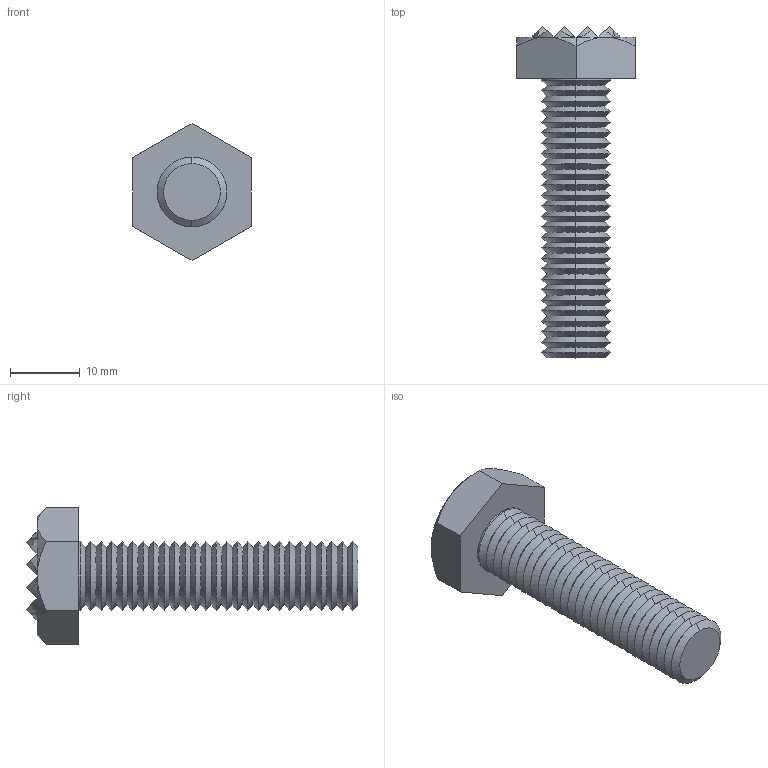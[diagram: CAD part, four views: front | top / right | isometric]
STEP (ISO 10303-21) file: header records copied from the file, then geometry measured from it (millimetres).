
FILE_DESCRIPTION (( 'STEP AP203' ), '1' );
FILE_NAME ('35400.W0008.step', '2017-07-03T07:21:20', ( 'User' ), ( '' ), 'SwSTEP 2.0', 'SolidWorks 2009', '' );
FILE_SCHEMA (( 'CONFIG_CONTROL_DESIGN' ));
Length unit declared in the file: millimetre
Products named in the file (1): 35400.W0008
Bounding box: 17 x 47.5 x 19.63 mm (x, y, z)
Volume: 4129.6 mm3; surface area: 2682 mm2
Topology: 1 solids, 1 shells, 192 faces, 364 edges, 176 vertices
Faces by surface type: cone 125, plane 65, cylinder 2
Entity records: 4714 total; most frequent: CARTESIAN_POINT 887, DIRECTION 845, ORIENTED_EDGE 728, EDGE_CURVE 364, AXIS2_PLACEMENT_3D 324, VECTOR 197, LINE 197, EDGE_LOOP 194
